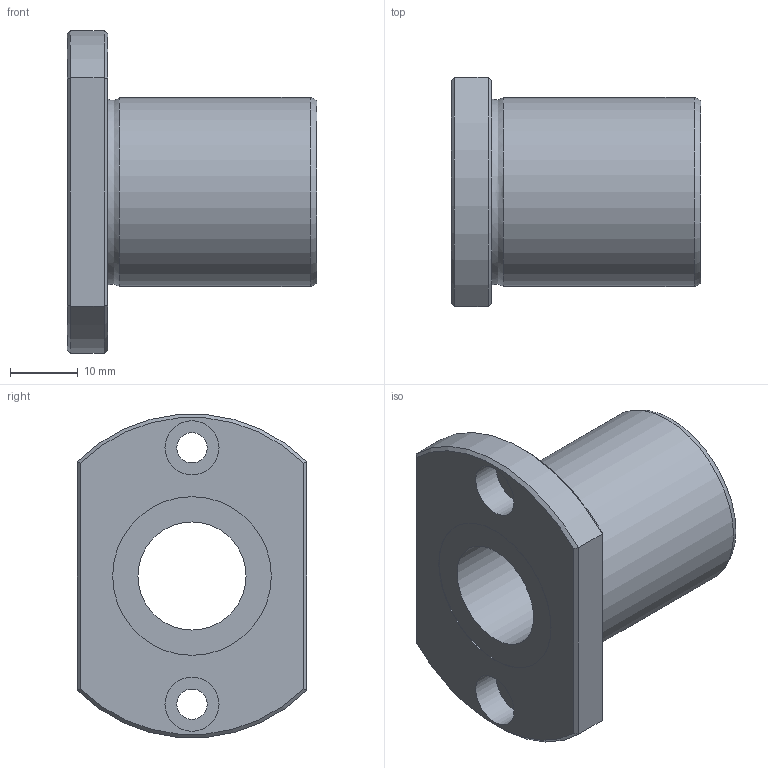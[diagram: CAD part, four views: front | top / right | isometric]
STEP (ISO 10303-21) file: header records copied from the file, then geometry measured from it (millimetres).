
FILE_DESCRIPTION((''),'2;1');
FILE_NAME('D:\製品 (図面)\カタログ用3D\リニアベアリング関連\STEP形式\LFT\LFT16.stp','2010-06-04T09:16:54',('Tsuchiya'),(''),'Autodesk Inventor 10','Autodesk Inventor 10','');
FILE_SCHEMA(('AUTOMOTIVE_DESIGN { 1 0 10303 214 1 1 1 1 }'));
Length unit declared in the file: millimetre
Products named in the file (1): LFT16
Bounding box: 37 x 34 x 47.82 mm (x, y, z)
Volume: 19913 mm3; surface area: 8124.6 mm2
Topology: 1 solids, 1 shells, 29 faces, 56 edges, 34 vertices
Faces by surface type: plane 13, cylinder 10, cone 4, torus 1, bspline 1
Full cylindrical faces by diameter (mm): 4.5 x2, 8 x2, 16 x1, 23.5 x2, 28 x1
Entity records: 787 total; most frequent: CARTESIAN_POINT 196, DIRECTION 122, ORIENTED_EDGE 92, AXIS2_PLACEMENT_3D 55, EDGE_LOOP 50, EDGE_CURVE 46, VERTEX_POINT 34, FACE_OUTER_BOUND 29
